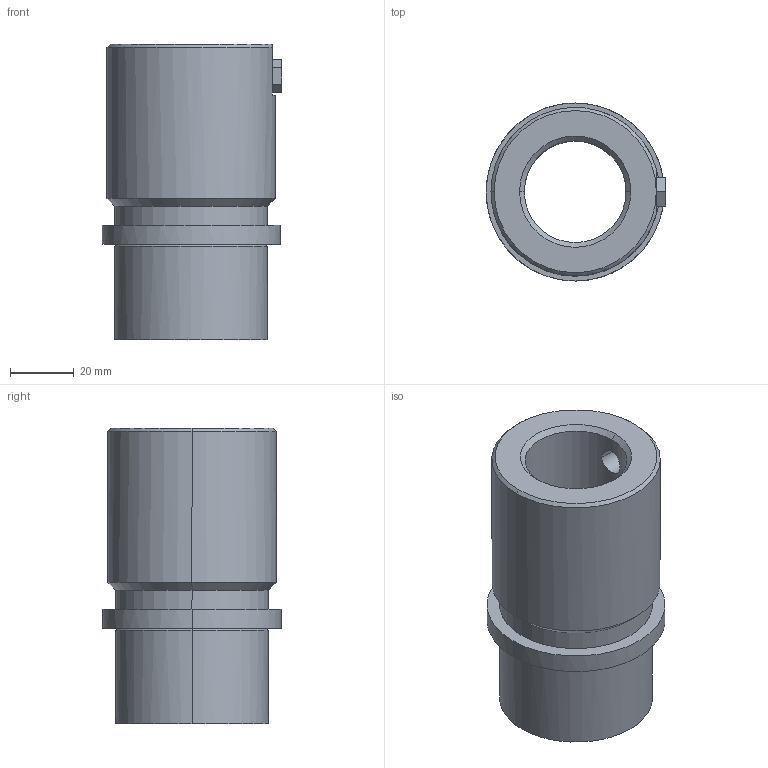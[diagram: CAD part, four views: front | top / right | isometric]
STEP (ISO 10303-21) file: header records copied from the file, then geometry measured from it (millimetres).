
FILE_DESCRIPTION(('CATIA V5 STEP Exchange'),'2;1');
FILE_NAME('C:\Users\Utente\Desktop\IO LAVORO\3D X SITO CF\X SITO\742\742-32.stp','2021-01-23T10:46:30+00:00',('none'),('none'),'CATIA Version 5 Release 20 GA (IN-10)','CATIA V5 STEP AP203','none');
FILE_SCHEMA(('CONFIG_CONTROL_DESIGN'));
Length unit declared in the file: millimetre
Products named in the file (1): 742-32
Assembly tree (1 placements, depth 2):
  742-32
    #58
Bounding box: 56.5 x 56 x 93 mm (x, y, z)
Volume: 116438 mm3; surface area: 28394.9 mm2
Topology: 1 solids, 1 shells, 38 faces, 90 edges, 57 vertices
Faces by surface type: plane 14, cylinder 12, cone 8, torus 4
Entity records: 1260 total; most frequent: CARTESIAN_POINT 347, ORIENTED_EDGE 180, DIRECTION 155, EDGE_CURVE 90, AXIS2_PLACEMENT_3D 74, VERTEX_POINT 57, EDGE_LOOP 43, VECTOR 41
